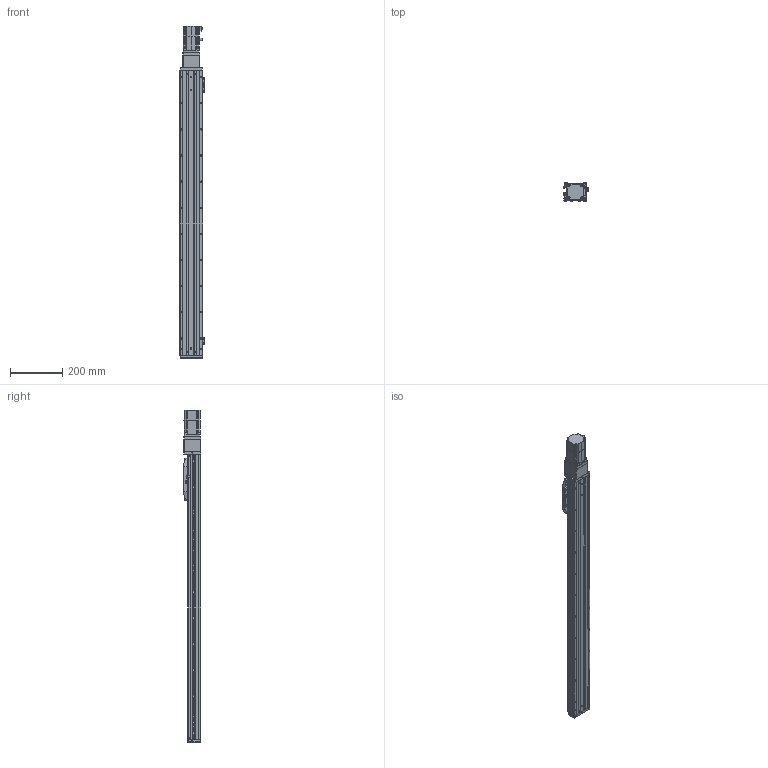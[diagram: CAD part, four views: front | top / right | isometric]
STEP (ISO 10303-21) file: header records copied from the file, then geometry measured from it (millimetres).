
FILE_DESCRIPTION (( 'STEP AP203' ), '1' );
FILE_NAME ('CTHA86-900-BC-M20-C4L.step', '2022-04-26T00:48:38', ( '微软用户' ), ( '微软中国' ), 'SwSTEP 2.0', 'SolidWorks 2020', '' );
FILE_SCHEMA (( 'CONFIG_CONTROL_DESIGN' ));
Length unit declared in the file: millimetre
Products named in the file (22): GB¨uT 70.2-M3¡Á5_M3¡Á6; GBT 70.1-M3×16; GBT 70.3-M3℅6; EE_SX911P_R; GBT 70.1-M3℅6; CTHA86-002; CTHA60-017; CTHA60-016; CTHA86-031; CTHA60-021; CTHA86-013; CTHA86-030; KTHA86-001_1090; GBT77-2000 M3×3; CTHA86-027; CTHA86-900-BC-M20-C4L; KTHA86-004; GBT 70.1-M3×20; CTHA86-006-1_CTHA86-006-2; KTHA86-005; GBT70.1 M5℅16; _X2_4E0983F1_X0_200W_1
Assembly tree (65 placements, depth 2):
  CTHA86-900-BC-M20-C4L
    KTHA86-001_1090
    KTHA86-004
    KTHA86-005
    GB¨uT 70.2-M3¡Á5_M3¡Á6  x10
    EE_SX911P_R  x3
    CTHA60-017  x3
    CTHA60-021  x2
    GBT77-2000 M3×3  x6
    GBT 70.1-M3×20
    GBT70.1 M5℅16  x14
    GBT 70.1-M3×16
    GBT 70.1-M3℅6  x6
    CTHA60-016  x2
    CTHA86-013
    CTHA86-027
    CTHA86-006-1_CTHA86-006-2
    _X2_4E0983F1_X0_200W_1
    GBT 70.3-M3℅6  x6
    CTHA86-002
    CTHA86-031
    CTHA86-030  x2
Bounding box: 93.82 x 68 x 1270.5 mm (x, y, z)
Volume: 4175821.2 mm3; surface area: 727082.7 mm2
Topology: 67 solids, 67 shells, 2794 faces, 6695 edges, 4120 vertices
Faces by surface type: plane 1464, cylinder 721, cone 396, torus 120, bspline 69, sphere 24
Entity records: 50213 total; most frequent: CARTESIAN_POINT 9296, DIRECTION 7928, ORIENTED_EDGE 7646, EDGE_CURVE 3823, AXIS2_PLACEMENT_3D 2688, VECTOR 2552, LINE 2552, VERTEX_POINT 2398
